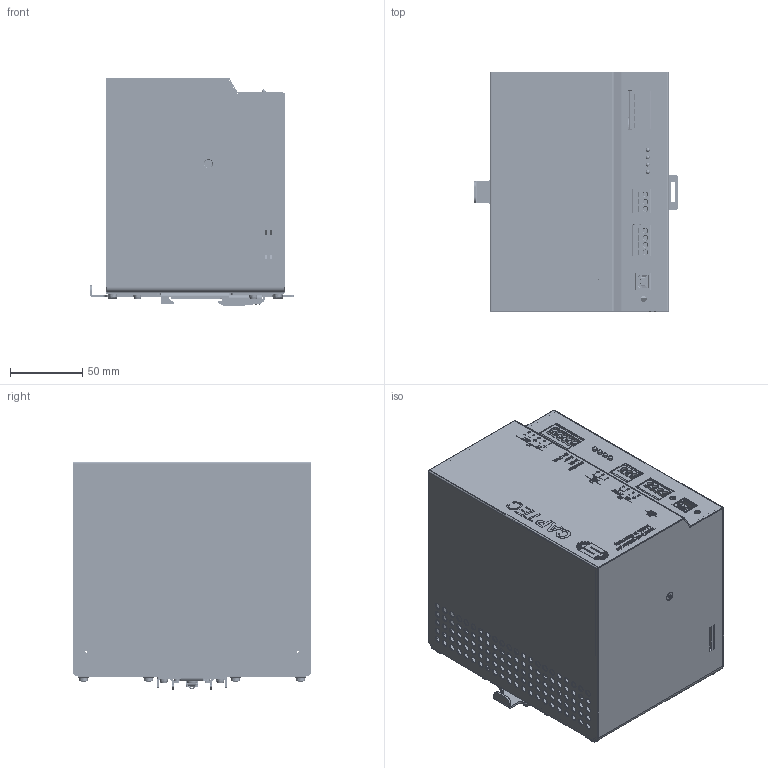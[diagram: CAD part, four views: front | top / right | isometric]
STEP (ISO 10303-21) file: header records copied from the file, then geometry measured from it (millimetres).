
FILE_DESCRIPTION(/* description */ ('Maßblatt'),/* implementation_level */ '2;1');
FILE_NAME(/* name */ 'H:\(HU)\Entwicklung-HU\Projekte_G\1905G01\06 Mechanik_Verdrahtung\3D\1905G01001-0001-D.stp',/* time_stamp */ '2019-10-07T14:44:47+02:00',/* author */ ('mhe'),/* organization */ (''),/* preprocessor_version */ 'ST-DEVELOPER v17',/* originating_system */ 'Autodesk Inventor 2018',/* authorisation */ '');
FILE_SCHEMA (('AUTOMOTIVE_DESIGN { 1 0 10303 214 3 1 1 }'));
Products named in the file (25): 1905G01001-0001; 1905G01001-1000; 1905G01001-1001; 1905G01001-1002; User Library-Terminal keystone 7700; LED-Leiste4x 3xgn1rt; M3x35ii SW5.5; SPT 2.5-3-H-5.0; SPT 2.5-4-H-5.0; USB_B_horizontal; Insulator; shielding; Pin_2; Pin; Wago 2624-1105; 1905G01001-6010; 1905G01001-6020; 1905G01001-7000; DIN 7337 - A4 x 8; 1970G01001-5000; 1970G01001-5001; 1970G01001-5002; VD176; Linsenschraube DIN 7500C; DIN965 M3x4 TX10
Assembly tree (42 placements, depth 4):
  1905G01001-0001
    1905G01001-1000
      1905G01001-1001
      1905G01001-1002
      User Library-Terminal keystone 7700  x2
      LED-Leiste4x 3xgn1rt
      M3x35ii SW5.5  x5
      SPT 2.5-3-H-5.0
      SPT 2.5-4-H-5.0
      USB_B_horizontal
        Insulator
        shielding
        Pin_2  x2
        Pin  x2
      Wago 2624-1105
    1905G01001-6010
    1905G01001-6020
    1905G01001-7000
    DIN 7337 - A4 x 8  x4
    1970G01001-5000
      1970G01001-5001
      1970G01001-5002
      VD176
    Linsenschraube DIN 7500C  x8
    DIN965 M3x4 TX10  x2
Bounding box: 141 x 165 x 157.95 mm (x, y, z)
Volume: 667865.7 mm3; surface area: 482278.8 mm2
Topology: 166 solids, 166 shells, 4579 faces, 11974 edges, 7879 vertices
Faces by surface type: plane 2897, cylinder 902, bspline 608, cone 146, torus 22, sphere 4
Full cylindrical faces by diameter (mm): 0.457 x2, 1 x24, 1.1 x14, 1.4 x8, 1.5 x12, 2.5 x5, 2.693 x8, 2.7 x8, 2.8 x6, 3 x10, 3.2 x14, 3.4 x2, 3.5 x12, 4 x12, 4.1 x4, 4.2 x8, 4.5 x220, 5.6 x2, 8 x4, 13 x6, 22.904 x1, 25.5 x11
Entity records: 136432 total; most frequent: CARTESIAN_POINT 35133, ORIENTED_EDGE 21398, DIRECTION 18432, EDGE_CURVE 10699, LINE 7594, VECTOR 7594, VERTEX_POINT 7034, AXIS2_PLACEMENT_3D 5419
